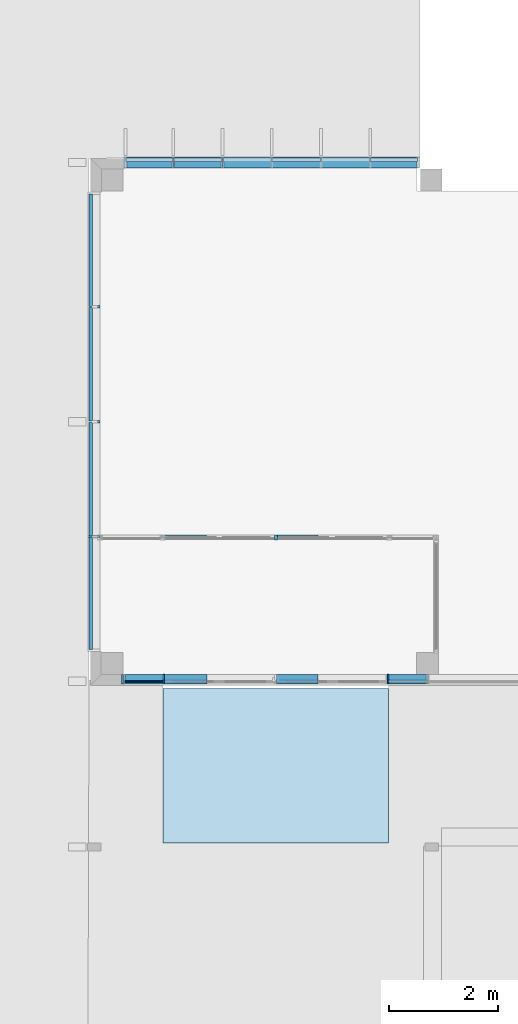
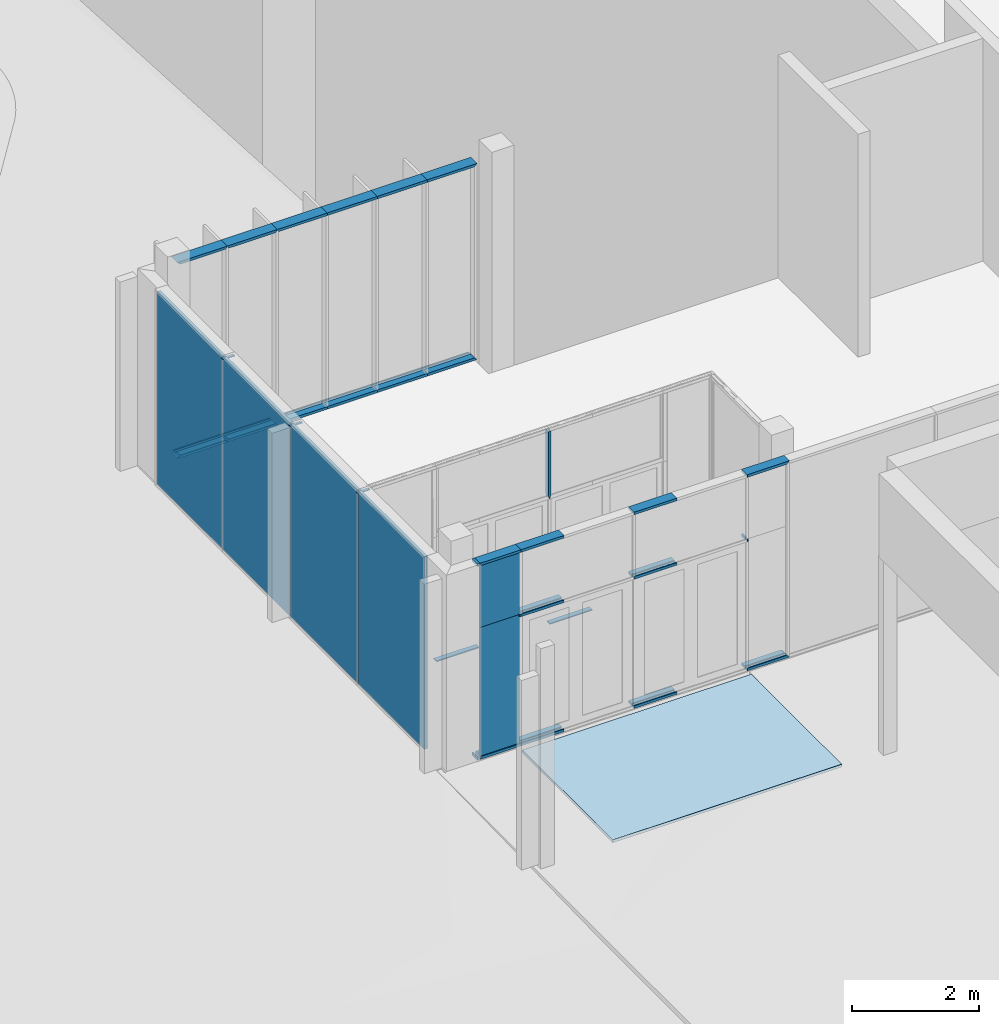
# One storey, part 8 of 69: 32 members, 6 plates, 1 slab, 4 elements without a shape of their own.
"""IFC2X3 building model written with IfcOpenShell, lengths in millimetres."""

from ifc_helpers import new_model, entity, si_unit, converted_unit, derived_unit, money_unit, direction, frame, origin_with_axes, place, context, subcontext, project, spatial, polyline, outline, extrude, clip, halfspace, faceted_brep, material, layer, layer_set, layer_usage, type_object, element, aggregate, save


model = new_model("IFC2X3")

# Units and contexts
model_context = context("Model", 3, precision=0.01, world=origin_with_axes(), true_north=direction((0.0, 1.0)))
body_context = subcontext(model_context, "Body", "Model", "MODEL_VIEW")
ifc_project = project(units=[si_unit("LENGTHUNIT", "METRE", prefix="MILLI"), si_unit("AREAUNIT", "SQUARE_METRE"), si_unit("VOLUMEUNIT", "CUBIC_METRE"), converted_unit("PLANEANGLEUNIT", "DEGREE", entity("IfcPlaneAngleMeasure", 0.0174532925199), si_unit("PLANEANGLEUNIT", "RADIAN"), dimensions=[0, 0, 0, 0, 0, 0, 0]), si_unit("SOLIDANGLEUNIT", "STERADIAN"), money_unit("EUR"), converted_unit("TIMEUNIT", "Year", entity("IfcTimeMeasure", 31556926.0), si_unit("TIMEUNIT", "SECOND"), dimensions=[0, 0, 1, 0, 0, 0, 0]), si_unit("MASSUNIT", "GRAM", prefix="KILO"), si_unit("THERMODYNAMICTEMPERATUREUNIT", "DEGREE_CELSIUS"), si_unit("LUMINOUSINTENSITYUNIT", "LUMEN"), si_unit("ENERGYUNIT", "JOULE", prefix="MEGA"), derived_unit("THERMALCONDUCTANCEUNIT", [(si_unit("POWERUNIT", "WATT"), 1), (si_unit("LENGTHUNIT", "METRE"), -1), (si_unit("THERMODYNAMICTEMPERATUREUNIT", "KELVIN"), -1)]), derived_unit("SPECIFICHEATCAPACITYUNIT", [(si_unit("ENERGYUNIT", "JOULE"), 1), (si_unit("MASSUNIT", "GRAM", prefix="KILO"), -1), (si_unit("THERMODYNAMICTEMPERATUREUNIT", "KELVIN"), -1)]), derived_unit("MASSDENSITYUNIT", [(si_unit("MASSUNIT", "GRAM", prefix="KILO"), 1), (si_unit("VOLUMEUNIT", "CUBIC_METRE"), -1)])], contexts=[model_context])

# Site, building, storey
site_placement = place(None, origin_with_axes())
site = spatial("IfcSite", under=ifc_project, at=site_placement, Name="Puškini 31, Narva", CompositionType="ELEMENT")
building_placement = place(site_placement, origin_with_axes())
building = spatial("IfcBuilding", under=site, at=building_placement, Name="Narva Riigigümnaasium", CompositionType="ELEMENT")
storey_placement = place(building_placement, origin_with_axes())
storey = spatial("IfcBuildingStorey", under=building, at=storey_placement, Name="1.korrus 0.00", CompositionType="ELEMENT", Elevation=0.0)

# Curtain wall, members
curtain_wall_type = type_object("IfcCurtainWallType", Name="Curtain Wall Type", PredefinedType="NOTDEFINED")
curtain_wall_1_placement = place(storey_placement, frame((18229.9603698, 152620.000001, -0.397158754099), z_axis=(0.0, 0.0, 1.0), x_axis=(1.0, 0.0, 0.0)))
curtain_wall_1 = element("IfcCurtainWall", 1, at=curtain_wall_1_placement, inside=storey, type_object=curtain_wall_type, Name="G-KLF-01-1")
ifc_material_1 = material(Name="ET-04_Alumiinium")
member_type_1 = type_object("IfcMemberType", Name="20 x 90", PredefinedType="MULLION")
member_1_placement = place(curtain_wall_1_placement, frame((-167.593132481, 0.0, 0.0), z_axis=(-1.0, 0.0, 0.0), x_axis=(0.0, 0.0, 1.0)))
member_1 = element("IfcMember", 2, at=member_1_placement, type_object=member_type_1, material=ifc_material_1, Name="G-SKLF-01-raam", ObjectType="MULLION", context=body_context, shape_type="SweptSolid", body=[
    extrude(outline(polyline([(45.0, -20.0), (45.0, 0.0), (-45.0, 0.0), (-45.0, -20.0), (45.0, -20.0)])), frame((0.0, 0.0, 0.0), z_axis=(0.0, 0.0, 1.0), x_axis=(0.0, 1.0, 0.0)), (0.0, 0.0, 1.0), 773.537000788),
])
member_2_placement = place(curtain_wall_1_placement, frame((1882.40686752, 0.0, 0.0), z_axis=(-1.0, 0.0, 0.0), x_axis=(0.0, 0.0, 1.0)))
member_2 = element("IfcMember", 3, at=member_2_placement, type_object=member_type_1, material=ifc_material_1, Name="G-SKLF-01-raam", ObjectType="MULLION", context=body_context, shape_type="SweptSolid", body=[
    extrude(outline(polyline([(45.0, -20.0), (45.0, 0.0), (-45.0, 0.0), (-45.0, -20.0), (45.0, -20.0)])), frame((0.0, 0.0, 0.0), z_axis=(0.0, 0.0, 1.0), x_axis=(0.0, 1.0, 0.0)), (0.0, 0.0, 1.0), 773.683599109),
])

curtain_wall_2_placement = place(storey_placement, frame((18232.2449236, 149970.00001, 0.0), z_axis=(0.0, 0.0, 1.0), x_axis=(1.0, 0.0, 0.0)))
curtain_wall_2 = element("IfcCurtainWall", 4, at=curtain_wall_2_placement, inside=storey, type_object=curtain_wall_type, Name="G-KLF-01a")
member_type_2 = type_object("IfcMemberType", Name="Boundary Frame 50 x 176", PredefinedType="MULLION")
member_3_placement = place(curtain_wall_2_placement, frame((-1685.24495115, 0.0, 3760.0), z_axis=(-1.0, 0.0, 0.0), x_axis=(0.0, 0.0, 1.0)))
member_3 = element("IfcMember", 5, at=member_3_placement, type_object=member_type_2, material=ifc_material_1, Name="Klaasfassaadi raam", ObjectType="MULLION", context=body_context, shape_type="Clipping", body=[
    clip(extrude(outline(polyline([(29.0, 35.0), (-29.0, 35.0), (-29.0, 50.0), (-46.0, 50.0), (-46.0, 0.0), (130.0, 0.0), (130.0, 50.0), (29.0, 50.0), (29.0, 35.0)])), frame((0.0, 0.0, 0.0), z_axis=(0.0, 0.0, 1.0), x_axis=(0.0, 1.0, 0.0)), (0.0, 0.0, 1.0), 49.99999755), halfspace(frame((0.0, 0.0, 0.0), z_axis=(0.447213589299, 0.0, 0.8944271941), x_axis=(0.0, -1.0, 0.0)), True)),
])
member_4_placement = place(curtain_wall_2_placement, frame((-162.877495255, 0.0, 0.0), z_axis=(-1.0, 0.0, 0.0), x_axis=(0.0, 0.0, 1.0)))
member_4 = element("IfcMember", 6, at=member_4_placement, type_object=member_type_2, material=ifc_material_1, Name="Klaasfassaadi raam", ObjectType="MULLION", context=body_context, shape_type="SweptSolid", body=[
    extrude(outline(polyline([(29.0, -35.0), (29.0, -50.0), (130.0, -50.0), (130.0, 0.0), (-46.0, 0.0), (-46.0, -50.0), (-29.0, -50.0), (-29.0, -35.0), (29.0, -35.0)])), frame((0.0, 0.0, 0.0), z_axis=(0.0, 0.0, 1.0), x_axis=(0.0, 1.0, 0.0)), (0.0, 0.0, 1.0), 780.683741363),
])
member_5_placement = place(curtain_wall_2_placement, frame((-162.877495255, 0.0, 3760.0), z_axis=(-1.0, 0.0, 0.0), x_axis=(0.0, 0.0, 1.0)))
member_5 = element("IfcMember", 7, at=member_5_placement, type_object=member_type_2, material=ifc_material_1, Name="Klaasfassaadi raam", ObjectType="MULLION", context=body_context, shape_type="SweptSolid", body=[
    extrude(outline(polyline([(29.0, 35.0), (-29.0, 35.0), (-29.0, 50.0), (-46.0, 50.0), (-46.0, 0.0), (130.0, 0.0), (130.0, 50.0), (29.0, 50.0), (29.0, 35.0)])), frame((0.0, 0.0, 0.0), z_axis=(0.0, 0.0, 1.0), x_axis=(0.0, 1.0, 0.0)), (0.0, 0.0, 1.0), 780.683741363),
])
member_6_placement = place(curtain_wall_2_placement, frame((1880.12250669, 0.0, 2499.99998746), z_axis=(-1.0, 0.0, -1.519594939e-08), x_axis=(-1.519594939e-08, 0.0, 1.0)))
member_6 = element("IfcMember", 8, at=member_6_placement, type_object=member_type_2, material=ifc_material_1, Name="Klaasfassaadi raam", ObjectType="MULLION", context=body_context, shape_type="SweptSolid", body=[
    extrude(outline(polyline([(29.0, 9.99998824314), (-29.0, 9.99998824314), (-29.0, 24.9999882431), (-46.0, 24.9999882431), (-46.0, -25.0000117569), (-29.0, -25.0000117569), (-29.0, -10.0000117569), (29.0, -10.0000117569), (29.0, -25.0000117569), (130.0, -25.0000117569), (130.0, 24.9999882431), (29.0, 24.9999882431), (29.0, 9.99998824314)])), frame((0.0, 0.0, -1.15938547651e-06), z_axis=(0.0, 0.0, 1.0), x_axis=(0.0, 1.0, 0.0)), (0.0, 0.0, 1.0), 773.683776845),
])
member_7_placement = place(curtain_wall_2_placement, frame((1880.12250669, 0.0, 0.0), z_axis=(-1.0, 0.0, 0.0), x_axis=(0.0, 0.0, 1.0)))
member_7 = element("IfcMember", 9, at=member_7_placement, type_object=member_type_2, material=ifc_material_1, Name="Klaasfassaadi raam", ObjectType="MULLION", context=body_context, shape_type="SweptSolid", body=[
    extrude(outline(polyline([(29.0, -35.0), (29.0, -50.0), (130.0, -50.0), (130.0, 0.0), (-46.0, 0.0), (-46.0, -50.0), (-29.0, -50.0), (-29.0, -35.0), (29.0, -35.0)])), frame((0.0, 0.0, 0.0), z_axis=(0.0, 0.0, 1.0), x_axis=(0.0, 1.0, 0.0)), (0.0, 0.0, 1.0), 773.683774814),
])
member_8_placement = place(curtain_wall_2_placement, frame((1880.12250669, 0.0, 3760.0), z_axis=(-1.0, 0.0, 0.0), x_axis=(0.0, 0.0, 1.0)))
member_8 = element("IfcMember", 10, at=member_8_placement, type_object=member_type_2, material=ifc_material_1, Name="Klaasfassaadi raam", ObjectType="MULLION", context=body_context, shape_type="SweptSolid", body=[
    extrude(outline(polyline([(29.0, 35.0), (-29.0, 35.0), (-29.0, 50.0), (-46.0, 50.0), (-46.0, 0.0), (130.0, 0.0), (130.0, 50.0), (29.0, 50.0), (29.0, 35.0)])), frame((0.0, 0.0, 0.0), z_axis=(0.0, 0.0, 1.0), x_axis=(0.0, 1.0, 0.0)), (0.0, 0.0, 1.0), 773.683782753),
])
member_9_placement = place(curtain_wall_2_placement, frame((3923.12250863, 0.0, 0.0), z_axis=(-1.0, 0.0, 0.0), x_axis=(0.0, 0.0, 1.0)))
member_9 = element("IfcMember", 11, at=member_9_placement, type_object=member_type_2, material=ifc_material_1, Name="Klaasfassaadi raam", ObjectType="MULLION", context=body_context, shape_type="Clipping", body=[
    clip(extrude(outline(polyline([(29.0, -35.0), (29.0, -50.0), (130.0, -50.0), (130.0, 0.0), (-46.0, 0.0), (-46.0, -50.0), (-29.0, -50.0), (-29.0, -35.0), (29.0, -35.0)])), frame((0.0, 0.0, 0.0), z_axis=(0.0, 0.0, 1.0), x_axis=(0.0, 1.0, 0.0)), (0.0, 0.0, 1.0), 766.683752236), halfspace(frame((0.0, 0.0, 0.0), z_axis=(-0.707106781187, 0.0, 0.707106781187), x_axis=(0.0, -1.0, 0.0)), True)),
])
member_10_placement = place(curtain_wall_2_placement, frame((3923.12250863, 0.0, 3760.0), z_axis=(-1.0, 0.0, 0.0), x_axis=(0.0, 0.0, 1.0)))
member_10 = element("IfcMember", 12, at=member_10_placement, type_object=member_type_2, material=ifc_material_1, Name="Klaasfassaadi raam", ObjectType="MULLION", context=body_context, shape_type="Clipping", body=[
    clip(extrude(outline(polyline([(29.0, 35.0), (-29.0, 35.0), (-29.0, 50.0), (-46.0, 50.0), (-46.0, 0.0), (130.0, 0.0), (130.0, 50.0), (29.0, 50.0), (29.0, 35.0)])), frame((0.0, 0.0, 0.0), z_axis=(0.0, 0.0, 1.0), x_axis=(0.0, 1.0, 0.0)), (0.0, 0.0, 1.0), 766.683760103), halfspace(frame((0.0, 0.0, 0.0), z_axis=(0.707106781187, 0.0, 0.707106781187), x_axis=(0.0, -1.0, 0.0)), True)),
])
member_11_placement = place(curtain_wall_2_placement, frame((-162.877495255, 0.0, 2499.99993143), z_axis=(-1.0, 0.0, 0.0), x_axis=(0.0, 0.0, 1.0)))
member_11 = element("IfcMember", 13, at=member_11_placement, type_object=member_type_2, material=ifc_material_1, Name="Klaasfassaadi raam", ObjectType="MULLION", context=body_context, shape_type="SweptSolid", body=[
    extrude(outline(polyline([(29.0, 10.0), (-29.0, 10.0), (-29.0, 25.0), (-46.0, 25.0), (-46.0, -25.0), (-29.0, -25.0), (-29.0, -10.0), (29.0, -10.0), (29.0, -25.0), (130.0, -25.0), (130.0, 25.0), (29.0, 25.0), (29.0, 10.0)])), frame((0.0, 0.0, -8.71956729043e-07), z_axis=(0.0, 0.0, 1.0), x_axis=(0.0, 1.0, 0.0)), (0.0, 0.0, 1.0), 780.683742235),
])
member_12_placement = place(curtain_wall_2_placement, frame((-1685.24494023, 0.0, 0.0), z_axis=(-1.0, 0.0, 0.0), x_axis=(0.0, 0.0, 1.0)))
member_12 = element("IfcMember", 14, at=member_12_placement, type_object=member_type_2, material=ifc_material_1, Name="Klaasfassaadi raam", ObjectType="MULLION", context=body_context, shape_type="Clipping", body=[
    clip(extrude(outline(polyline([(29.0, -35.0), (29.0, -50.0), (130.0, -50.0), (130.0, 0.0), (-46.0, 0.0), (-46.0, -50.0), (-29.0, -50.0), (-29.0, -35.0), (29.0, -35.0)])), frame((0.0, 0.0, 0.0), z_axis=(0.0, 0.0, 1.0), x_axis=(0.0, 1.0, 0.0)), (0.0, 0.0, 1.0), 50.0000084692), halfspace(frame((0.0, 0.0, 0.0), z_axis=(-0.4472135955, 0.0, 0.894427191), x_axis=(0.0, -1.0, 0.0)), True)),
])
member_13_placement = place(curtain_wall_2_placement, frame((3181.43874898, 0.0, 2499.99998746), z_axis=(-1.0, 0.0, -8.15998106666e-07), x_axis=(-8.15998106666e-07, 0.0, 1.0)))
member_13 = element("IfcMember", 15, at=member_13_placement, type_object=member_type_2, material=ifc_material_1, Name="Klaasfassaadi raam", ObjectType="MULLION", context=body_context, shape_type="SweptSolid", body=[
    extrude(outline(polyline([(29.0, 9.99997960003), (-29.0, 9.99997960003), (-29.0, 24.9999796), (-46.0, 24.9999796), (-46.0, -25.0000204), (-29.0, -25.0000204), (-29.0, -10.0000204), (29.0, -10.0000204), (29.0, -25.0000204), (130.0, -25.0000204), (130.0, 24.9999796), (29.0, 24.9999796), (29.0, 9.99997960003)])), frame((0.0, 0.0, -2.03999519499e-05), z_axis=(0.0, 0.0, 1.0), x_axis=(0.0, 1.0, 0.0)), (0.0, 0.0, 1.0), 25.0000541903),
])
member_14_placement = place(curtain_wall_2_placement, frame((-943.561236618, 0.0, 2499.99993143), z_axis=(-1.0, 0.0, 0.0), x_axis=(0.0, 0.0, 1.0)))
member_14 = element("IfcMember", 16, at=member_14_placement, type_object=member_type_2, material=ifc_material_1, Name="Klaasfassaadi raam", ObjectType="MULLION", context=body_context, shape_type="SweptSolid", body=[
    extrude(outline(polyline([(29.0, 10.0), (-29.0, 10.0), (-29.0, 25.0), (-46.0, 25.0), (-46.0, -25.0), (-29.0, -25.0), (-29.0, -10.0), (29.0, -10.0), (29.0, -25.0), (130.0, -25.0), (130.0, 25.0), (29.0, 25.0), (29.0, 10.0)])), frame((0.0, 0.0, 0.0), z_axis=(0.0, 0.0, 1.0), x_axis=(0.0, 1.0, 0.0)), (0.0, 0.0, 1.0), 25.0000133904),
])
member_15_placement = place(curtain_wall_2_placement, frame((-943.561236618, 0.0, 0.0), z_axis=(-1.0, 0.0, 0.0), x_axis=(0.0, 0.0, 1.0)))
member_15 = element("IfcMember", 17, at=member_15_placement, type_object=member_type_2, material=ifc_material_1, Name="Klaasfassaadi raam", ObjectType="MULLION", context=body_context, shape_type="Clipping", body=[
    clip(extrude(outline(polyline([(29.0, -35.0), (29.0, -50.0), (130.0, -50.0), (130.0, 0.0), (-46.0, 0.0), (-46.0, -50.0), (-29.0, -50.0), (-29.0, -35.0), (29.0, -35.0)])), frame((0.0, 0.0, 0.0), z_axis=(0.0, 0.0, 1.0), x_axis=(0.0, 1.0, 0.0)), (0.0, 0.0, 1.0), 741.683703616), halfspace(frame((296.673481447, 0.0, 593.346962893), z_axis=(-0.4472135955, 0.0, -0.894427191), x_axis=(0.0, 1.0, 0.0)), True)),
])
member_16_placement = place(curtain_wall_2_placement, frame((-943.561236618, 0.0, 3760.0), z_axis=(-1.0, 0.0, 0.0), x_axis=(0.0, 0.0, 1.0)))
member_16 = element("IfcMember", 18, at=member_16_placement, type_object=member_type_2, material=ifc_material_1, Name="Klaasfassaadi raam", ObjectType="MULLION", context=body_context, shape_type="Clipping", body=[
    clip(extrude(outline(polyline([(29.0, 35.0), (-29.0, 35.0), (-29.0, 50.0), (-46.0, 50.0), (-46.0, 0.0), (130.0, 0.0), (130.0, 50.0), (29.0, 50.0), (29.0, 35.0)])), frame((0.0, 0.0, 0.0), z_axis=(0.0, 0.0, 1.0), x_axis=(0.0, 1.0, 0.0)), (0.0, 0.0, 1.0), 741.683714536), halfspace(frame((-296.673488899, 0.0, 593.346967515), z_axis=(0.447213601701, 0.0, -0.894427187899), x_axis=(0.0, 1.0, 0.0)), True)),
])

# Member
ifc_material_2 = material(Name="Alumiiniumprofiil")
member_type_3 = type_object("IfcMemberType", Name="50 x 90", PredefinedType="MULLION")
member_17_placement = place(curtain_wall_1_placement, frame((1108.72326841, 0.0, 2400.00003439), z_axis=(-3.61130567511e-09, 0.0, 1.0), x_axis=(1.0, 0.0, 3.61130567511e-09)))
member_17 = element("IfcMember", 19, at=member_17_placement, type_object=member_type_3, material=ifc_material_2, Name="G-SKLF-01-raam", ObjectType="MULLION", context=body_context, shape_type="Brep", body=[
    faceted_brep([(25.0000002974, 0.0, 82.36477449), (25.0000046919, 0.0, 1299.23237883), (25.0000046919, -45.0, 1299.23237899), (25.0000002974, -45.0, 82.36477449), (25.0000002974, 45.0, 82.36477449), (25.0000046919, 45.0, 1299.23237866), (-24.9999953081, -45.0, 1299.23237917), (-24.9999953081, 45.0, 1299.23237884), (-24.9999953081, 0.0, 1299.23237901), (0.0, -45.0, 0.0), (-24.9999997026, -45.0, 82.3647748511), (0.0, 45.0, 0.0), (-24.9999997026, 45.0, 82.3647748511), (-24.9999997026, 0.0, 82.3647748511)], [[[0, 1, 2, 3]], [[4, 5, 1, 0]], [[6, 2, 1, 5, 7, 8]], [[9, 3, 2, 6, 10]], [[9, 11, 4, 0, 3]], [[11, 12, 7, 5, 4]], [[13, 8, 7, 12]], [[10, 6, 8, 13]], [[10, 13, 12, 11, 9]]]),
])

aggregate(curtain_wall_1, [member_1, member_2, member_17])

# Curtain wall, members
curtain_wall_3_placement = place(storey_placement, frame((15928.9999994, 157711.00001, -0.000109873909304), z_axis=(0.0, 0.0, 1.0), x_axis=(1.0, 0.0, 0.0)))
curtain_wall_3 = element("IfcCurtainWall", 20, at=curtain_wall_3_placement, inside=storey, type_object=curtain_wall_type, Name="G-KLF-02")
member_type_4 = type_object("IfcMemberType", Name="Mullion Frame 50 x 216", PredefinedType="MULLION")
member_18_placement = place(curtain_wall_3_placement, frame((0.0, -846.0, 3690.04670398), z_axis=(0.0, 0.0, 1.0), x_axis=(0.0, 1.0, 0.0)))
member_18 = element("IfcMember", 21, at=member_18_placement, type_object=member_type_4, material=ifc_material_1, Name="klaasfassaadi raam", ObjectType="MULLION", context=body_context, shape_type="SweptSolid", body=[
    extrude(outline(polyline([(31.0, -9.99999999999), (31.0, -25.0), (170.0, -25.0), (170.0, 25.0), (31.0, 25.0), (31.0, 9.99999999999), (-31.0, 9.99999999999), (-31.0, 25.0), (-46.0, 25.0), (-46.0, -25.0), (-31.0, -25.0), (-31.0, -9.99999999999), (31.0, -9.99999999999)])), frame((0.0, 0.0, 0.0), z_axis=(0.0, 0.0, 1.0), x_axis=(0.0, -1.0, 0.0)), (0.0, 0.0, 1.0), 19.9534058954),
])
member_19_placement = place(curtain_wall_3_placement, frame((0.0, -2961.0, 3690.04670888), z_axis=(0.0, 0.0, 1.0), x_axis=(0.0, 1.0, 0.0)))
member_19 = element("IfcMember", 22, at=member_19_placement, type_object=member_type_4, material=ifc_material_1, Name="klaasfassaadi raam", ObjectType="MULLION", context=body_context, shape_type="SweptSolid", body=[
    extrude(outline(polyline([(31.0, -9.99999999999), (31.0, -25.0), (170.0, -25.0), (170.0, 25.0), (31.0, 25.0), (31.0, 9.99999999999), (-31.0, 9.99999999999), (-31.0, 25.0), (-46.0, 25.0), (-46.0, -25.0), (-31.0, -25.0), (-31.0, -9.99999999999), (31.0, -9.99999999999)])), frame((0.0, 0.0, 0.0), z_axis=(0.0, 0.0, 1.0), x_axis=(0.0, -1.0, 0.0)), (0.0, 0.0, 1.0), 19.9534058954),
])
member_20_placement = place(curtain_wall_3_placement, frame((0.0, -5076.0, 3690.04670888), z_axis=(0.0, 0.0, 1.0), x_axis=(0.0, 1.0, 0.0)))
member_20 = element("IfcMember", 23, at=member_20_placement, type_object=member_type_4, material=ifc_material_1, Name="klaasfassaadi raam", ObjectType="MULLION", context=body_context, shape_type="SweptSolid", body=[
    extrude(outline(polyline([(31.0, -9.99999999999), (31.0, -25.0), (170.0, -25.0), (170.0, 25.0), (31.0, 25.0), (31.0, 9.99999999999), (-31.0, 9.99999999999), (-31.0, 25.0), (-46.0, 25.0), (-46.0, -25.0), (-31.0, -25.0), (-31.0, -9.99999999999), (31.0, -9.99999999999)])), frame((0.0, 0.0, 0.0), z_axis=(0.0, 0.0, 1.0), x_axis=(0.0, -1.0, 0.0)), (0.0, 0.0, 1.0), 19.9534058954),
])

curtain_wall_4_placement = place(storey_placement, frame((17902.9999992, 159574.999987, -0.000108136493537), z_axis=(0.0, 0.0, 1.0), x_axis=(1.0, 0.0, 0.0)))
curtain_wall_4 = element("IfcCurtainWall", 24, at=curtain_wall_4_placement, inside=storey, type_object=curtain_wall_type, Name="G-KLF-03")
member_type_5 = type_object("IfcMemberType", Name="Boundary Frame 50 x 196", PredefinedType="MULLION")
member_21_placement = place(curtain_wall_4_placement, frame((-452.999999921, 0.0, 0.0), z_axis=(1.0, 0.0, 0.0), x_axis=(0.0, 0.0, 1.0)))
member_21 = element("IfcMember", 25, at=member_21_placement, type_object=member_type_5, material=ifc_material_1, Name="klaasfassaadi raam", ObjectType="MULLION", context=body_context, shape_type="Clipping", body=[
    clip(clip(extrude(outline(polyline([(31.0, -35.0), (31.0, -50.0), (150.0, -50.0), (150.0, 0.0), (-46.0, 0.0), (-46.0, -50.0), (-31.0, -50.0), (-31.0, -35.0), (31.0, -35.0)])), frame((0.0, 0.0, 0.0), z_axis=(0.0, 0.0, 1.0), x_axis=(0.0, 1.0, 0.0)), (0.0, 0.0, 1.0), 905.999999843), halfspace(frame((362.399999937, 0.0, 724.799999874), z_axis=(-0.4472135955, 0.0, -0.894427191), x_axis=(0.0, 1.0, 0.0)), True)), halfspace(frame((0.0, 0.0, 0.0), z_axis=(-0.4472135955, 0.0, 0.894427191), x_axis=(0.0, -1.0, 0.0)), True)),
])
member_22_placement = place(curtain_wall_4_placement, frame((-1358.99999976, 0.0, 0.0), z_axis=(1.0, 0.0, 0.0), x_axis=(0.0, 0.0, 1.0)))
member_22 = element("IfcMember", 26, at=member_22_placement, type_object=member_type_5, material=ifc_material_1, Name="klaasfassaadi raam", ObjectType="MULLION", context=body_context, shape_type="Clipping", body=[
    clip(clip(extrude(outline(polyline([(31.0, -35.0), (31.0, -50.0), (150.0, -50.0), (150.0, 0.0), (-46.0, 0.0), (-46.0, -50.0), (-31.0, -50.0), (-31.0, -35.0), (31.0, -35.0)])), frame((0.0, 0.0, 0.0), z_axis=(0.0, 0.0, 1.0), x_axis=(0.0, 1.0, 0.0)), (0.0, 0.0, 1.0), 905.999999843), halfspace(frame((362.399999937, 0.0, 724.799999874), z_axis=(-0.4472135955, 0.0, -0.894427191), x_axis=(0.0, 1.0, 0.0)), True)), halfspace(frame((0.0, 0.0, 0.0), z_axis=(-0.707106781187, 0.0, 0.707106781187), x_axis=(0.0, -1.0, 0.0)), True)),
])
member_23_placement = place(curtain_wall_4_placement, frame((452.999999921, 0.0, 0.0), z_axis=(1.0, 0.0, 0.0), x_axis=(0.0, 0.0, 1.0)))
member_23 = element("IfcMember", 27, at=member_23_placement, type_object=member_type_5, material=ifc_material_1, Name="klaasfassaadi raam", ObjectType="MULLION", context=body_context, shape_type="Clipping", body=[
    clip(extrude(outline(polyline([(31.0, -35.0), (31.0, -50.0), (150.0, -50.0), (150.0, 0.0), (-46.0, 0.0), (-46.0, -50.0), (-31.0, -50.0), (-31.0, -35.0), (31.0, -35.0)])), frame((0.0, 0.0, 0.0), z_axis=(0.0, 0.0, 1.0), x_axis=(0.0, 1.0, 0.0)), (0.0, 0.0, 1.0), 905.999999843), halfspace(frame((0.0, 0.0, 0.0), z_axis=(-0.4472135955, 0.0, 0.894427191), x_axis=(0.0, -1.0, 0.0)), True)),
])
member_24_placement = place(curtain_wall_4_placement, frame((-452.999999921, 0.0, 3760.00007447), z_axis=(-1.0, 0.0, 0.0), x_axis=(0.0, 0.0, -1.0)))
member_24 = element("IfcMember", 28, at=member_24_placement, type_object=member_type_5, material=ifc_material_1, Name="klaasfassaadi raam", ObjectType="MULLION", context=body_context, shape_type="Clipping", body=[
    clip(clip(extrude(outline(polyline([(-31.0, 35.0), (-31.0, 50.0), (-150.0, 50.0), (-150.0, 0.0), (46.0, 0.0), (46.0, 50.0), (31.0, 50.0), (31.0, 35.0), (-31.0, 35.0)])), frame((0.0, 0.0, 0.0), z_axis=(0.0, 0.0, 1.0), x_axis=(0.0, -1.0, 0.0)), (0.0, 0.0, 1.0), 905.999999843), halfspace(frame((452.999999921, 0.0, 452.999999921), z_axis=(-0.707106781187, 0.0, -0.707106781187), x_axis=(0.0, 1.0, 0.0)), True)), halfspace(frame((0.0, 0.0, 0.0), z_axis=(-0.4472135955, 0.0, 0.894427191), x_axis=(0.0, -1.0, 0.0)), True)),
])
member_25_placement = place(curtain_wall_4_placement, frame((452.999999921, 0.0, 3760.00007447), z_axis=(-1.0, 0.0, 0.0), x_axis=(0.0, 0.0, -1.0)))
member_25 = element("IfcMember", 29, at=member_25_placement, type_object=member_type_5, material=ifc_material_1, Name="klaasfassaadi raam", ObjectType="MULLION", context=body_context, shape_type="Clipping", body=[
    clip(clip(extrude(outline(polyline([(-31.0, 35.0), (-31.0, 50.0), (-150.0, 50.0), (-150.0, 0.0), (46.0, 0.0), (46.0, 50.0), (31.0, 50.0), (31.0, 35.0), (-31.0, 35.0)])), frame((0.0, 0.0, 0.0), z_axis=(0.0, 0.0, 1.0), x_axis=(0.0, -1.0, 0.0)), (0.0, 0.0, 1.0), 905.999999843), halfspace(frame((362.399999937, 0.0, 724.799999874), z_axis=(-0.4472135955, 0.0, -0.894427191), x_axis=(0.0, 1.0, 0.0)), True)), halfspace(frame((0.0, 0.0, 0.0), z_axis=(-0.4472135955, 0.0, 0.894427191), x_axis=(0.0, -1.0, 0.0)), True)),
])
member_26_placement = place(curtain_wall_4_placement, frame((1358.99999976, 0.0, 3760.00010175), z_axis=(-1.0, 0.0, -3.01062471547e-08), x_axis=(3.01062471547e-08, 0.0, -1.0)))
member_26 = element("IfcMember", 30, at=member_26_placement, type_object=member_type_5, material=ifc_material_1, Name="klaasfassaadi raam", ObjectType="MULLION", context=body_context, shape_type="Clipping", body=[
    clip(extrude(outline(polyline([(-31.0, 34.9999732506), (-31.0, 49.9999734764), (-150.0, 49.9999734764), (-150.0, -2.72762599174e-05), (46.0, -2.72762599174e-05), (46.0, 49.9999734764), (31.0, 49.9999734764), (31.0, 34.9999732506), (-31.0, 34.9999732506)])), frame((0.0, 0.0, -7.52656603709e-07), z_axis=(0.0, 0.0, 1.0), x_axis=(0.0, -1.0, 0.0)), (0.0, 0.0, 1.0), 906.000000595), halfspace(frame((362.399965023, 0.0, 724.800028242), z_axis=(-0.44721354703, 0.0, -0.894427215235), x_axis=(0.0, 1.0, 0.0)), True)),
])
member_27_placement = place(curtain_wall_4_placement, frame((1358.99999976, 0.0, 0.0), z_axis=(1.0, 0.0, 0.0), x_axis=(0.0, 0.0, 1.0)))
member_27 = element("IfcMember", 31, at=member_27_placement, type_object=member_type_5, material=ifc_material_1, Name="klaasfassaadi raam", ObjectType="MULLION", context=body_context, shape_type="SweptSolid", body=[
    extrude(outline(polyline([(31.0, -35.0), (31.0, -50.0), (150.0, -50.0), (150.0, 0.0), (-46.0, 0.0), (-46.0, -50.0), (-31.0, -50.0), (-31.0, -35.0), (31.0, -35.0)])), frame((0.0, 0.0, 0.0), z_axis=(0.0, 0.0, 1.0), x_axis=(0.0, 1.0, 0.0)), (0.0, 0.0, 1.0), 905.999999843),
])
member_28_placement = place(curtain_wall_4_placement, frame((2264.99999961, 0.0, 3760.00010175), z_axis=(-1.0, 0.0, 0.0), x_axis=(0.0, 0.0, -1.0)))
member_28 = element("IfcMember", 32, at=member_28_placement, type_object=member_type_5, material=ifc_material_1, Name="klaasfassaadi raam", ObjectType="MULLION", context=body_context, shape_type="SweptSolid", body=[
    extrude(outline(polyline([(-31.0, 35.0), (-31.0, 50.0), (-150.0, 50.0), (-150.0, 0.0), (46.0, 0.0), (46.0, 50.0), (31.0, 50.0), (31.0, 35.0), (-31.0, 35.0)])), frame((0.0, 0.0, 0.0), z_axis=(0.0, 0.0, 1.0), x_axis=(0.0, -1.0, 0.0)), (0.0, 0.0, 1.0), 905.999999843),
])
member_29_placement = place(curtain_wall_4_placement, frame((2264.99999961, 0.0, 0.0), z_axis=(1.0, 0.0, 0.0), x_axis=(0.0, 0.0, 1.0)))
member_29 = element("IfcMember", 33, at=member_29_placement, type_object=member_type_5, material=ifc_material_1, Name="klaasfassaadi raam", ObjectType="MULLION", context=body_context, shape_type="SweptSolid", body=[
    extrude(outline(polyline([(31.0, -35.0), (31.0, -50.0), (150.0, -50.0), (150.0, 0.0), (-46.0, 0.0), (-46.0, -50.0), (-31.0, -50.0), (-31.0, -35.0), (31.0, -35.0)])), frame((0.0, 0.0, 0.0), z_axis=(0.0, 0.0, 1.0), x_axis=(0.0, 1.0, 0.0)), (0.0, 0.0, 1.0), 905.999999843),
])
member_30_placement = place(curtain_wall_4_placement, frame((3170.99999945, 0.0, 0.0), z_axis=(1.0, 0.0, 0.0), x_axis=(0.0, 0.0, 1.0)))
member_30 = element("IfcMember", 34, at=member_30_placement, type_object=member_type_5, material=ifc_material_1, Name="klaasfassaadi raam", ObjectType="MULLION", context=body_context, shape_type="Clipping", body=[
    clip(extrude(outline(polyline([(31.0, -35.0), (31.0, -50.0), (150.0, -50.0), (150.0, 0.0), (-46.0, 0.0), (-46.0, -50.0), (-31.0, -50.0), (-31.0, -35.0), (31.0, -35.0)])), frame((0.0, 0.0, 0.0), z_axis=(0.0, 0.0, 1.0), x_axis=(0.0, 1.0, 0.0)), (0.0, 0.0, 1.0), 905.999999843), halfspace(frame((452.999999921, 0.0, 452.999999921), z_axis=(-0.707106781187, 0.0, -0.707106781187), x_axis=(0.0, 1.0, 0.0)), True)),
])
member_31_placement = place(curtain_wall_4_placement, frame((3170.99999945, 0.0, 3760.00010175), z_axis=(-1.0, 0.0, 0.0), x_axis=(0.0, 0.0, -1.0)))
member_31 = element("IfcMember", 35, at=member_31_placement, type_object=member_type_5, material=ifc_material_1, Name="klaasfassaadi raam", ObjectType="MULLION", context=body_context, shape_type="SweptSolid", body=[
    extrude(outline(polyline([(-31.0, 35.0), (-31.0, 50.0), (-150.0, 50.0), (-150.0, 0.0), (46.0, 0.0), (46.0, 50.0), (31.0, 50.0), (31.0, 35.0), (-31.0, 35.0)])), frame((0.0, 0.0, 0.0), z_axis=(0.0, 0.0, 1.0), x_axis=(0.0, -1.0, 0.0)), (0.0, 0.0, 1.0), 905.999999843),
])
member_32_placement = place(curtain_wall_4_placement, frame((4076.99999929, 0.0, 3760.00010175), z_axis=(-1.0, 0.0, 0.0), x_axis=(0.0, 0.0, -1.0)))
member_32 = element("IfcMember", 36, at=member_32_placement, type_object=member_type_5, material=ifc_material_1, Name="klaasfassaadi raam", ObjectType="MULLION", context=body_context, shape_type="Clipping", body=[
    clip(extrude(outline(polyline([(-31.0, 35.0), (-31.0, 50.0), (-150.0, 50.0), (-150.0, 0.0), (46.0, 0.0), (46.0, 50.0), (31.0, 50.0), (31.0, 35.0), (-31.0, 35.0)])), frame((0.0, 0.0, 0.0), z_axis=(0.0, 0.0, 1.0), x_axis=(0.0, -1.0, 0.0)), (0.0, 0.0, 1.0), 905.999999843), halfspace(frame((0.0, 0.0, 0.0), z_axis=(-0.707106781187, 0.0, 0.707106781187), x_axis=(0.0, -1.0, 0.0)), True)),
])
aggregate(curtain_wall_4, [member_21, member_22, member_23, member_24, member_25, member_26, member_27, member_28, member_29, member_30, member_31, member_32])

# Plate
ifc_material_3 = material(Name="Klaas")
plate_type_1 = type_object("IfcPlateType", Name="Main Panel 2070 x 3690 x 62", PredefinedType="CURTAIN_PANEL")
plate_1_placement = place(curtain_wall_3_placement, frame((0.0, 0.0, 2242.00938475), z_axis=(0.0, 0.0, 1.0), x_axis=(0.0, 1.0, 0.0)))
plate_1 = element("IfcPlate", 37, at=plate_1_placement, type_object=plate_type_1, material=ifc_material_3, Name="klaasfassaadi klaas", ObjectType="CURTAIN_PANEL", context=body_context, shape_type="SweptSolid", body=[
    extrude(outline(polyline([(-835.999997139, -1482.99072291), (1233.99999779, -1482.99072291), (1233.99999779, 2207.00938253), (-835.999997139, 2207.00938253), (-835.999997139, -1482.99072291)])), frame((0.0, -31.0, 0.0), z_axis=(0.0, 1.0, 0.0), x_axis=(1.0, 0.0, 0.0)), (0.0, 0.0, 1.0), 62.0),
])

plate_type_2 = type_object("IfcPlateType", Name="Main Panel 2095 x 35 x 62", PredefinedType="CURTAIN_PANEL")
plate_2_placement = place(curtain_wall_3_placement, frame((0.0, -4018.5, 2483.34893959), z_axis=(0.0, 0.0, 1.0), x_axis=(0.0, 1.0, 0.0)))
plate_2 = element("IfcPlate", 38, at=plate_2_placement, type_object=plate_type_2, material=ifc_material_3, Name="klaasfassaadi klaas", ObjectType="CURTAIN_PANEL", context=body_context, shape_type="SweptSolid", body=[
    extrude(outline(polyline([(-1047.49999714, -1241.65116807), (1047.49999136, -1241.65116807), (1047.49999136, 2448.34893737), (-1047.49999714, 2448.34893737), (-1047.49999714, -1241.65116807)])), frame((0.0, -31.0, 0.0), z_axis=(0.0, 1.0, 0.0), x_axis=(1.0, 0.0, 0.0)), (0.0, 0.0, 1.0), 62.0),
])

plate_3_placement = place(curtain_wall_3_placement, frame((0.0, -1903.5, 2483.34893877), z_axis=(0.0, 0.0, 1.0), x_axis=(0.0, 1.0, 0.0)))
plate_3 = element("IfcPlate", 39, at=plate_3_placement, type_object=plate_type_2, material=ifc_material_3, Name="klaasfassaadi klaas", ObjectType="CURTAIN_PANEL", context=body_context, shape_type="SweptSolid", body=[
    extrude(outline(polyline([(-1047.49999714, -1241.65116889), (1047.49999136, -1241.65116889), (1047.49999136, 2448.34893655), (-1047.49999714, 2448.34893655), (-1047.49999714, -1241.65116889)])), frame((0.0, -31.0, 0.0), z_axis=(0.0, 1.0, 0.0), x_axis=(1.0, 0.0, 0.0)), (0.0, 0.0, 1.0), 62.0),
])

plate_type_3 = type_object("IfcPlateType", Name="Main Panel 2070 x 35 x 62", PredefinedType="CURTAIN_PANEL")
plate_4_placement = place(curtain_wall_3_placement, frame((0.0, -5922.0, 2242.00938573), z_axis=(0.0, 0.0, 1.0), x_axis=(0.0, 1.0, 0.0)))
plate_4 = element("IfcPlate", 40, at=plate_4_placement, type_object=plate_type_3, material=ifc_material_3, Name="klaasfassaadi klaas", ObjectType="CURTAIN_PANEL", context=body_context, shape_type="SweptSolid", body=[
    extrude(outline(polyline([(-1234.00000356, -1482.99072193), (835.999991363, -1482.99072193), (835.999991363, 2207.00938351), (-1234.00000356, 2207.00938351), (-1234.00000356, -1482.99072193)])), frame((0.0, -31.0, 0.0), z_axis=(0.0, 1.0, 0.0), x_axis=(1.0, 0.0, 0.0)), (0.0, 0.0, 1.0), 62.0),
])

aggregate(curtain_wall_3, [member_18, member_19, member_20, plate_1, plate_2, plate_3, plate_4])

ifc_material_4 = material(Name="Klaaspakett")
plate_type_4 = type_object("IfcPlateType", Name="Distinct Panel 707 x 10 x 20", PredefinedType="CURTAIN_PANEL")
plate_5_placement = place(curtain_wall_2_placement, frame((-1245.23471658, 0.0, 1499.99995886), z_axis=(0.0, 0.0, 1.0), x_axis=(1.0, 0.0, 0.0)))
plate_5 = element("IfcPlate", 41, at=plate_5_placement, type_object=plate_type_4, material=ifc_material_4, Name="Klaasfassaadi klaas", ObjectType="CURTAIN_PANEL", context=body_context, shape_type="SweptSolid", body=[
    extrude(outline(polyline([(-430.01023593, -999.999972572), (276.67348065, -999.999972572), (276.67348065, -989.999980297), (291.67348769, -989.999980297), (291.67348769, 1464.99996727), (-430.01023593, 1464.99996727), (-430.01023593, -999.999972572)])), frame((0.0, -9.99999999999, 0.0), z_axis=(0.0, 1.0, 0.0), x_axis=(1.0, 0.0, 0.0)), (0.0, 0.0, 1.0), 20.0),
])

plate_type_5 = type_object("IfcPlateType", Name="Distinct Panel 722 x 1215 x 20", PredefinedType="CURTAIN_PANEL")
plate_6_placement = place(curtain_wall_2_placement, frame((-1245.23471877, 0.0, 3003.99995886), z_axis=(0.0, 0.0, 1.0), x_axis=(1.0, 0.0, 0.0)))
plate_6 = element("IfcPlate", 42, at=plate_6_placement, type_object=plate_type_5, material=ifc_material_4, Name="Klaasfassaadi klaas", ObjectType="CURTAIN_PANEL", context=body_context, shape_type="SweptSolid", body=[
    extrude(outline(polyline([(-430.010225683, -721.000045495), (291.673491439, -721.000045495), (291.673491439, 494.000036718), (276.673495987, 494.000036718), (276.673495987, 504.000027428), (-430.010225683, 504.000027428), (-430.010225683, -721.000045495)])), frame((0.0, -9.99999999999, 0.0), z_axis=(0.0, 1.0, 0.0), x_axis=(1.0, 0.0, 0.0)), (0.0, 0.0, 1.0), 20.0),
])

aggregate(curtain_wall_2, [member_3, member_4, member_5, member_6, member_7, member_8, member_9, member_10, member_11, member_12, member_13, member_14, member_15, member_16, plate_5, plate_6])

# Slab
ifc_material_5 = material(Name="ET-05_Teras")
ifc_layer = layer(ifc_material_5, 55.0, ventilated="UNKNOWN")
ifc_layer_set = layer_set([ifc_layer], Name="ET-05_Teras 55")
ifc_layer_usage = layer_usage(ifc_layer_set, "AXIS3", "NEGATIVE", 55.0)
slab_type = type_object("IfcSlabType", Name="ET-05_Teras 55", PredefinedType="NOTDEFINED")
slab_placement = place(storey_placement, frame((17263.683687, 147000.000001, -20.0), z_axis=(0.0, 0.0, 1.0), x_axis=(1.0, 0.0, 0.0)))
element("IfcSlab", 43, at=slab_placement, inside=storey, type_object=slab_type, material=ifc_layer_usage, Name="porirest", PredefinedType="NOTDEFINED", context=body_context, shape_type="SweptSolid", body=[
    extrude(outline(polyline([(0.0, 0.0), (4149.99999301, 0.0), (4149.99999301, 2843.10885383), (0.0, 2843.10885383), (0.0, 0.0)])), frame((0.0, 0.0, -55.0), z_axis=(0.0, 0.0, 1.0), x_axis=(1.0, 0.0, 0.0)), (0.0, 0.0, 1.0), 55.0),
])

save(model, "model.ifc")
